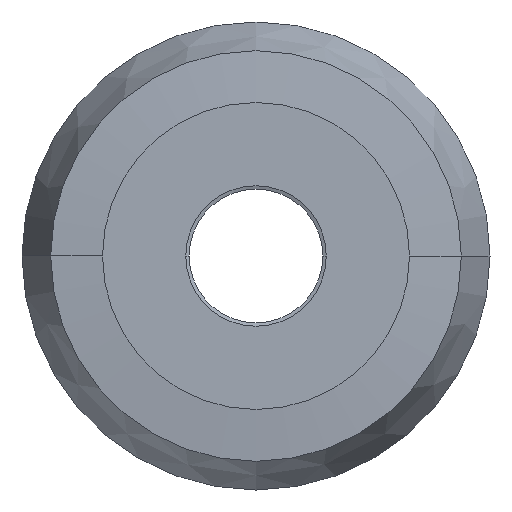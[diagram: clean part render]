
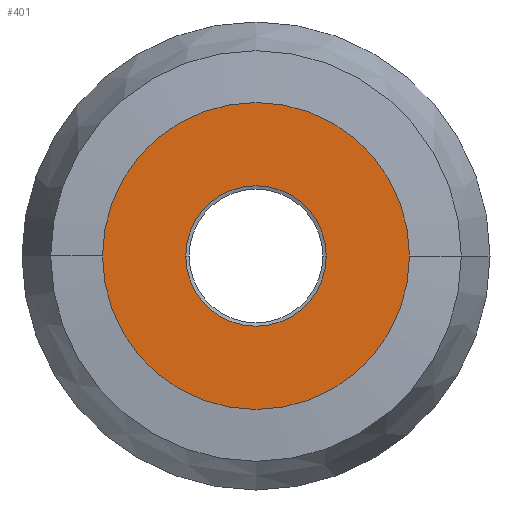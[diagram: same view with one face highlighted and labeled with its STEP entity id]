
A CAD part, front view. The second image highlights one B-rep face of the part: STEP entity #401.
In plain terms, the highlighted planar face has unit normal (0, -1, 0).
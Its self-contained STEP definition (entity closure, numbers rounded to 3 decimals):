
#2=CARTESIAN_POINT('',(0.,0.,
0.));
#3=DIRECTION('',(0.,1.,0.));
#4=DIRECTION('',(1.,0.,0.));
#5=AXIS2_PLACEMENT_3D('',#2,#3,#4);
#7=CARTESIAN_POINT('',(0.,0.,0.));
#8=DIRECTION('',(0.,1.,0.));
#9=DIRECTION('',(-1.,0.,0.));
#10=AXIS2_PLACEMENT_3D('',#7,#8,#9);
#12=CARTESIAN_POINT('',(0.,0.,0.));
#13=DIRECTION('',(0.,-1.,0.));
#14=DIRECTION('',(1.,0.,0.));
#15=AXIS2_PLACEMENT_3D('',#12,#13,#14);
#17=CARTESIAN_POINT('',(0.,0.,0.));
#18=DIRECTION('',(0.,-1.,0.));
#19=DIRECTION('',(-1.,0.,0.));
#20=AXIS2_PLACEMENT_3D('',#17,#18,#19);
#316=CARTESIAN_POINT('',(8.4,0.,0.));
#317=CARTESIAN_POINT('',(-8.4,0.,0.));
#318=VERTEX_POINT('',#316);
#319=VERTEX_POINT('',#317);
#328=CARTESIAN_POINT('',(18.37,0.,
0.));
#329=CARTESIAN_POINT('',(-18.37,0.,
0.));
#330=VERTEX_POINT('',#328);
#331=VERTEX_POINT('',#329);
#384=CARTESIAN_POINT('',(0.,0.,0.));
#385=DIRECTION('',(0.,1.,0.));
#386=DIRECTION('',(1.,0.,0.));
#387=AXIS2_PLACEMENT_3D('',#384,#385,#386);
#388=PLANE('',#387);
#390=ORIENTED_EDGE('',*,*,#389,.F.);
#392=ORIENTED_EDGE('',*,*,#391,.F.);
#393=EDGE_LOOP('',(#390,#392));
#394=FACE_OUTER_BOUND('',#393,.F.);
#396=ORIENTED_EDGE('',*,*,#395,.F.);
#398=ORIENTED_EDGE('',*,*,#397,.F.);
#399=EDGE_LOOP('',(#396,#398));
#400=FACE_BOUND('',#399,.F.);
#401=ADVANCED_FACE('',(#394,#400),#388,.F.);
#6=CIRCLE('',#5,8.4);
#11=CIRCLE('',#10,8.4);
#16=CIRCLE('',#15,18.37);
#21=CIRCLE('',#20,18.37);
#389=EDGE_CURVE('',#330,#331,#16,.T.);
#391=EDGE_CURVE('',#331,#330,#21,.T.);
#395=EDGE_CURVE('',#318,#319,#6,.T.);
#397=EDGE_CURVE('',#319,#318,#11,.T.);
